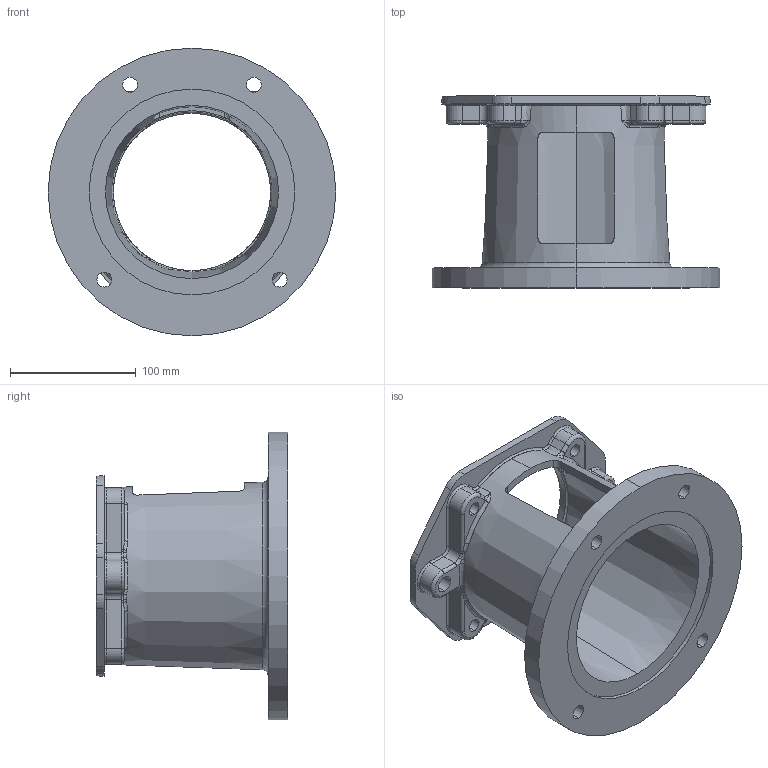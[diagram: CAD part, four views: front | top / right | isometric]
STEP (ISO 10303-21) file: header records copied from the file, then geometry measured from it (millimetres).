
FILE_DESCRIPTION (( 'STEP AP203' ), '1' );
FILE_NAME ('E64460125M.STEP', '2014-11-03T18:50:44', ( '' ), ( '' ), 'SwSTEP 2.0', 'SolidWorks 2014', '' );
FILE_SCHEMA (( 'CONFIG_CONTROL_DESIGN' ));
Length unit declared in the file: inch
Products named in the file (1): E64460125M
Bounding box: 228.6 x 152.4 x 228.6 mm (x, y, z)
Volume: 878975.9 mm3; surface area: 214633.6 mm2
Topology: 1 solids, 1 shells, 266 faces, 687 edges, 412 vertices
Faces by surface type: cylinder 74, bspline 64, torus 61, plane 39, sphere 16, cone 12
Entity records: 10709 total; most frequent: CARTESIAN_POINT 4552, ORIENTED_EDGE 1350, DIRECTION 1238, EDGE_CURVE 675, AXIS2_PLACEMENT_3D 548, VERTEX_POINT 412, CIRCLE 345, EDGE_LOOP 291
